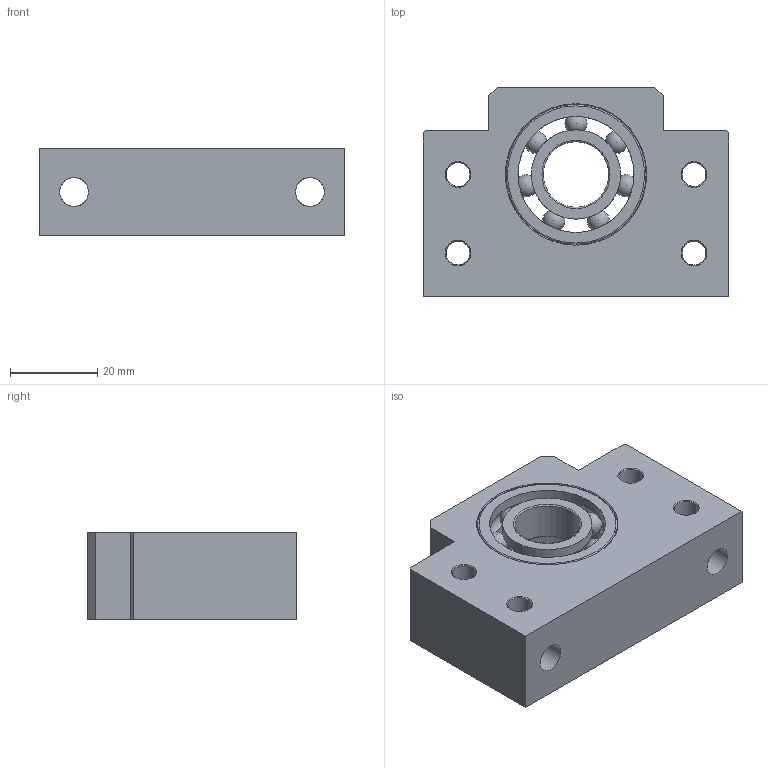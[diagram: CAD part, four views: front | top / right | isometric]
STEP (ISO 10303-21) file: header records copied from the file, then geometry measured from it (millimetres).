
FILE_DESCRIPTION(/* description */ (''),/* implementation_level */ '2;1');
FILE_NAME(/* name */ 'C:\Users\Nick_2\Dropbox\WG Projekte\Kamp und Kötter\Artikel\Fest- und Loslager BKBF\Loslager BF15.stp',/* time_stamp */ '2015-05-11T17:12:05+02:00',/* author */ ('Nick_2'),/* organization */ (''),/* preprocessor_version */ 'ST-DEVELOPER v15.2',/* originating_system */ 'Autodesk Inventor 2014',/* authorisation */ '');
FILE_SCHEMA (('AUTOMOTIVE_DESIGN { 1 0 10303 214 3 1 1 }'));
Length unit declared in the file: millimetre
Products named in the file (3): Loslager; DIN 625 SKF - SKF 6002; Zusammenbau Loslager
Bounding box: 70 x 48 x 20 mm (x, y, z)
Volume: 43962.6 mm3; surface area: 17450.2 mm2
Topology: 2 solids, 2 shells, 76 faces, 235 edges, 153 vertices
Faces by surface type: plane 20, cylinder 19, torus 18, cone 12, sphere 7
Full cylindrical faces by diameter (mm): 5.5 x8, 6.6 x2, 11 x2, 15 x1, 20.44 x2, 26.56 x2, 32 x2
Entity records: 3289 total; most frequent: CARTESIAN_POINT 1451, ORIENTED_EDGE 340, DIRECTION 338, EDGE_CURVE 170, AXIS2_PLACEMENT_3D 151, EDGE_LOOP 146, VERTEX_POINT 130, FACE_BOUND 84
